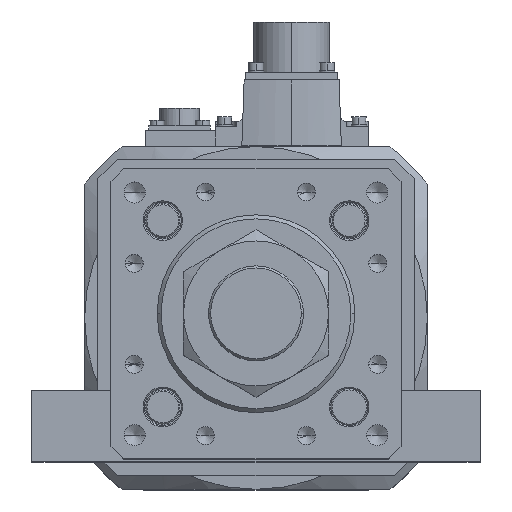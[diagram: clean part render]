
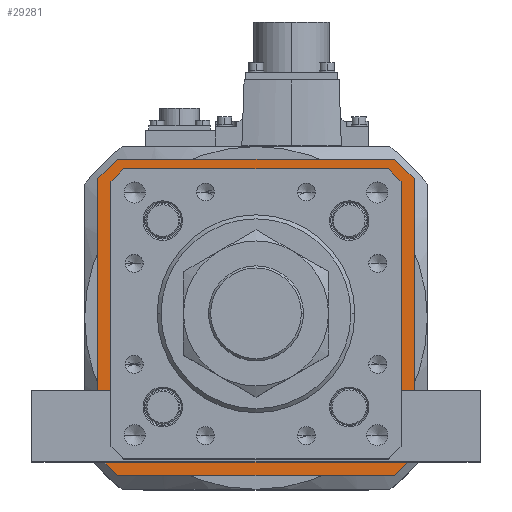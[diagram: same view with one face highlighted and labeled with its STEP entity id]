
A CAD part, top view. The second image highlights one B-rep face of the part: STEP entity #29281.
In plain terms, the highlighted planar face has unit normal (0, 0, 1) as drawn and (0, 0, -1) by its records, which use the part's own axes.
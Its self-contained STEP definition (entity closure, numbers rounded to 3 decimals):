
#230 = CARTESIAN_POINT ( 'NONE',  ( 53.5, 49.8, 52. ) ) ;
#302 = EDGE_CURVE ( 'NONE', #33735, #2952, #38242, .T. ) ;
#523 = ORIENTED_EDGE ( 'NONE', *, *, #37965, .T. ) ;
#699 = EDGE_CURVE ( 'NONE', #23051, #1288, #9107, .T. ) ;
#1288 = VERTEX_POINT ( 'NONE', #23611 ) ;
#1807 = VERTEX_POINT ( 'NONE', #13826 ) ;
#2033 = FACE_OUTER_BOUND ( 'NONE', #34713, .T. ) ;
#2229 = CARTESIAN_POINT ( 'NONE',  ( -52.5, -60., 52. ) ) ;
#2474 = LINE ( 'NONE', #24132, #29726 ) ;
#2793 = EDGE_CURVE ( 'NONE', #20278, #23051, #28273, .T. ) ;
#2952 = VERTEX_POINT ( 'NONE', #11077 ) ;
#3765 = EDGE_CURVE ( 'NONE', #8003, #15026, #22570, .T. ) ;
#3811 = AXIS2_PLACEMENT_3D ( 'NONE', #10797, #19655, #4631 ) ;
#4583 = CARTESIAN_POINT ( 'NONE',  ( 49.8, -53.5, 52. ) ) ;
#4631 = DIRECTION ( 'NONE',  ( 1., 0., 0. ) ) ;
#4831 = VECTOR ( 'NONE', #25305, 1000. ) ;
#4948 = VECTOR ( 'NONE', #28368, 1000. ) ;
#6259 = VECTOR ( 'NONE', #17854, 1000. ) ;
#6597 = CARTESIAN_POINT ( 'NONE',  ( -60., 60., 52. ) ) ;
#7084 = CARTESIAN_POINT ( 'NONE',  ( 52.5, 60., 52. ) ) ;
#7088 = LINE ( 'NONE', #6597, #9912 ) ;
#7484 = CARTESIAN_POINT ( 'NONE',  ( -49.593, 53.5, 52. ) ) ;
#7625 = DIRECTION ( 'NONE',  ( -1., 0., 0. ) ) ;
#7677 = CARTESIAN_POINT ( 'NONE',  ( 51.546, -51.546, 52. ) ) ;
#7833 = ORIENTED_EDGE ( 'NONE', *, *, #2793, .T. ) ;
#7928 = VERTEX_POINT ( 'NONE', #33256 ) ;
#8003 = VERTEX_POINT ( 'NONE', #7084 ) ;
#8106 = EDGE_CURVE ( 'NONE', #26807, #35764, #32708, .T. ) ;
#8340 = VECTOR ( 'NONE', #31909, 1000. ) ;
#8548 = CARTESIAN_POINT ( 'NONE',  ( 49.593, -53.5, 52. ) ) ;
#8745 = VERTEX_POINT ( 'NONE', #20881 ) ;
#8928 = LINE ( 'NONE', #29069, #32403 ) ;
#9107 = LINE ( 'NONE', #230, #6259 ) ;
#9459 = CARTESIAN_POINT ( 'NONE',  ( -60., 52.5, 52. ) ) ;
#9734 = LINE ( 'NONE', #19752, #8340 ) ;
#9834 = ORIENTED_EDGE ( 'NONE', *, *, #3765, .F. ) ;
#9912 = VECTOR ( 'NONE', #18589, 1000. ) ;
#10362 = CARTESIAN_POINT ( 'NONE',  ( 52.5, 60., 52. ) ) ;
#10662 = PLANE ( 'NONE',  #3811 ) ;
#10797 = CARTESIAN_POINT ( 'NONE',  ( 0., 0., 52. ) ) ;
#10939 = EDGE_CURVE ( 'NONE', #22438, #32204, #7088, .T. ) ;
#11077 = CARTESIAN_POINT ( 'NONE',  ( 52.5, -60., 52. ) ) ;
#12088 = ORIENTED_EDGE ( 'NONE', *, *, #15464, .T. ) ;
#12435 = ORIENTED_EDGE ( 'NONE', *, *, #16832, .T. ) ;
#13434 = EDGE_CURVE ( 'NONE', #8003, #32378, #17195, .T. ) ;
#13752 = VECTOR ( 'NONE', #35878, 1000. ) ;
#13796 = DIRECTION ( 'NONE',  ( 1., 0., 0. ) ) ;
#13826 = CARTESIAN_POINT ( 'NONE',  ( -49.593, -53.5, 52. ) ) ;
#14332 = DIRECTION ( 'NONE',  ( 0.707, 0.707, 0. ) ) ;
#14761 = CARTESIAN_POINT ( 'NONE',  ( 60., -52.5, 52. ) ) ;
#15026 = VERTEX_POINT ( 'NONE', #26381 ) ;
#15464 = EDGE_CURVE ( 'NONE', #35764, #8745, #29767, .T. ) ;
#15801 = EDGE_CURVE ( 'NONE', #20740, #2952, #29731, .T. ) ;
#15826 = ORIENTED_EDGE ( 'NONE', *, *, #13434, .T. ) ;
#15944 = ORIENTED_EDGE ( 'NONE', *, *, #19850, .F. ) ;
#16126 = ORIENTED_EDGE ( 'NONE', *, *, #8106, .T. ) ;
#16832 = EDGE_CURVE ( 'NONE', #1807, #20278, #26854, .T. ) ;
#17195 = LINE ( 'NONE', #10362, #37816 ) ;
#17466 = VECTOR ( 'NONE', #20524, 1000. ) ;
#17587 = LINE ( 'NONE', #35231, #38675 ) ;
#17854 = DIRECTION ( 'NONE',  ( 0., 1., 0. ) ) ;
#18097 = CARTESIAN_POINT ( 'NONE',  ( 60., 52.5, 52. ) ) ;
#18520 = EDGE_CURVE ( 'NONE', #1288, #7928, #9734, .T. ) ;
#18589 = DIRECTION ( 'NONE',  ( 0., -1., 0. ) ) ;
#18770 = ORIENTED_EDGE ( 'NONE', *, *, #699, .T. ) ;
#19655 = DIRECTION ( 'NONE',  ( 0., 0., 1. ) ) ;
#19752 = CARTESIAN_POINT ( 'NONE',  ( 51.546, 51.546, 52. ) ) ;
#19819 = LINE ( 'NONE', #29933, #17466 ) ;
#19827 = DIRECTION ( 'NONE',  ( 0.707, 0.707, 0. ) ) ;
#19850 = EDGE_CURVE ( 'NONE', #20740, #32378, #2474, .T. ) ;
#20278 = VERTEX_POINT ( 'NONE', #8548 ) ;
#20281 = CARTESIAN_POINT ( 'NONE',  ( -60., 52.5, 52. ) ) ;
#20392 = DIRECTION ( 'NONE',  ( 0.707, -0.707, 0. ) ) ;
#20524 = DIRECTION ( 'NONE',  ( -1., 0., 0. ) ) ;
#20740 = VERTEX_POINT ( 'NONE', #29295 ) ;
#20819 = EDGE_CURVE ( 'NONE', #7928, #26807, #19819, .T. ) ;
#20837 = DIRECTION ( 'NONE',  ( 1., 0., 0. ) ) ;
#20881 = CARTESIAN_POINT ( 'NONE',  ( -53.5, -49.593, 52. ) ) ;
#22200 = EDGE_CURVE ( 'NONE', #8745, #1807, #8928, .T. ) ;
#22293 = CARTESIAN_POINT ( 'NONE',  ( -53.5, -49.8, 52. ) ) ;
#22438 = VERTEX_POINT ( 'NONE', #9459 ) ;
#22570 = LINE ( 'NONE', #34818, #34283 ) ;
#22734 = CARTESIAN_POINT ( 'NONE',  ( -60., -52.5, 52. ) ) ;
#22914 = ORIENTED_EDGE ( 'NONE', *, *, #10939, .F. ) ;
#23051 = VERTEX_POINT ( 'NONE', #25205 ) ;
#23611 = CARTESIAN_POINT ( 'NONE',  ( 53.5, 49.593, 52. ) ) ;
#23984 = CARTESIAN_POINT ( 'NONE',  ( -60., -60., 52. ) ) ;
#24132 = CARTESIAN_POINT ( 'NONE',  ( 60., 60., 52. ) ) ;
#25205 = CARTESIAN_POINT ( 'NONE',  ( 53.5, -49.593, 52. ) ) ;
#25305 = DIRECTION ( 'NONE',  ( 0., -1., 0. ) ) ;
#25730 = VECTOR ( 'NONE', #14332, 1000. ) ;
#26032 = FACE_BOUND ( 'NONE', #27630, .T. ) ;
#26042 = ORIENTED_EDGE ( 'NONE', *, *, #18520, .T. ) ;
#26190 = DIRECTION ( 'NONE',  ( 0.707, -0.707, 0. ) ) ;
#26339 = EDGE_CURVE ( 'NONE', #33735, #32204, #17587, .T. ) ;
#26381 = CARTESIAN_POINT ( 'NONE',  ( -52.5, 60., 52. ) ) ;
#26807 = VERTEX_POINT ( 'NONE', #7484 ) ;
#26854 = LINE ( 'NONE', #4583, #32475 ) ;
#27630 = EDGE_LOOP ( 'NONE', ( #26042, #34277, #16126, #12088, #37642, #12435, #7833, #18770 ) ) ;
#28273 = LINE ( 'NONE', #7677, #37184 ) ;
#28368 = DIRECTION ( 'NONE',  ( -0.707, -0.707, 0. ) ) ;
#28542 = LINE ( 'NONE', #20281, #25730 ) ;
#29069 = CARTESIAN_POINT ( 'NONE',  ( -51.546, -51.546, 52. ) ) ;
#29281 = ADVANCED_FACE ( 'NONE', ( #26032, #2033 ), #10662, .F. ) ;
#29295 = CARTESIAN_POINT ( 'NONE',  ( 60., -52.5, 52. ) ) ;
#29726 = VECTOR ( 'NONE', #30013, 1000. ) ;
#29731 = LINE ( 'NONE', #14761, #13752 ) ;
#29767 = LINE ( 'NONE', #22293, #4831 ) ;
#29933 = CARTESIAN_POINT ( 'NONE',  ( -49.8, 53.5, 52. ) ) ;
#30013 = DIRECTION ( 'NONE',  ( 0., 1., 0. ) ) ;
#31909 = DIRECTION ( 'NONE',  ( -0.707, 0.707, 0. ) ) ;
#32204 = VERTEX_POINT ( 'NONE', #22734 ) ;
#32378 = VERTEX_POINT ( 'NONE', #18097 ) ;
#32379 = ORIENTED_EDGE ( 'NONE', *, *, #302, .F. ) ;
#32403 = VECTOR ( 'NONE', #26190, 1000. ) ;
#32475 = VECTOR ( 'NONE', #13796, 1000. ) ;
#32708 = LINE ( 'NONE', #34139, #4948 ) ;
#33256 = CARTESIAN_POINT ( 'NONE',  ( 49.593, 53.5, 52. ) ) ;
#33561 = VECTOR ( 'NONE', #20837, 1000. ) ;
#33735 = VERTEX_POINT ( 'NONE', #2229 ) ;
#34139 = CARTESIAN_POINT ( 'NONE',  ( -51.546, 51.546, 52. ) ) ;
#34277 = ORIENTED_EDGE ( 'NONE', *, *, #20819, .T. ) ;
#34283 = VECTOR ( 'NONE', #7625, 1000. ) ;
#34713 = EDGE_LOOP ( 'NONE', ( #32379, #38624, #22914, #523, #9834, #15826, #15944, #37980 ) ) ;
#34818 = CARTESIAN_POINT ( 'NONE',  ( -60., 60., 52. ) ) ;
#34970 = CARTESIAN_POINT ( 'NONE',  ( -53.5, 49.593, 52. ) ) ;
#34978 = DIRECTION ( 'NONE',  ( -0.707, 0.707, 0. ) ) ;
#35231 = CARTESIAN_POINT ( 'NONE',  ( -52.5, -60., 52. ) ) ;
#35764 = VERTEX_POINT ( 'NONE', #34970 ) ;
#35878 = DIRECTION ( 'NONE',  ( -0.707, -0.707, 0. ) ) ;
#37184 = VECTOR ( 'NONE', #19827, 1000. ) ;
#37642 = ORIENTED_EDGE ( 'NONE', *, *, #22200, .T. ) ;
#37816 = VECTOR ( 'NONE', #20392, 1000. ) ;
#37965 = EDGE_CURVE ( 'NONE', #22438, #15026, #28542, .T. ) ;
#37980 = ORIENTED_EDGE ( 'NONE', *, *, #15801, .T. ) ;
#38242 = LINE ( 'NONE', #23984, #33561 ) ;
#38624 = ORIENTED_EDGE ( 'NONE', *, *, #26339, .T. ) ;
#38675 = VECTOR ( 'NONE', #34978, 1000. ) ;
